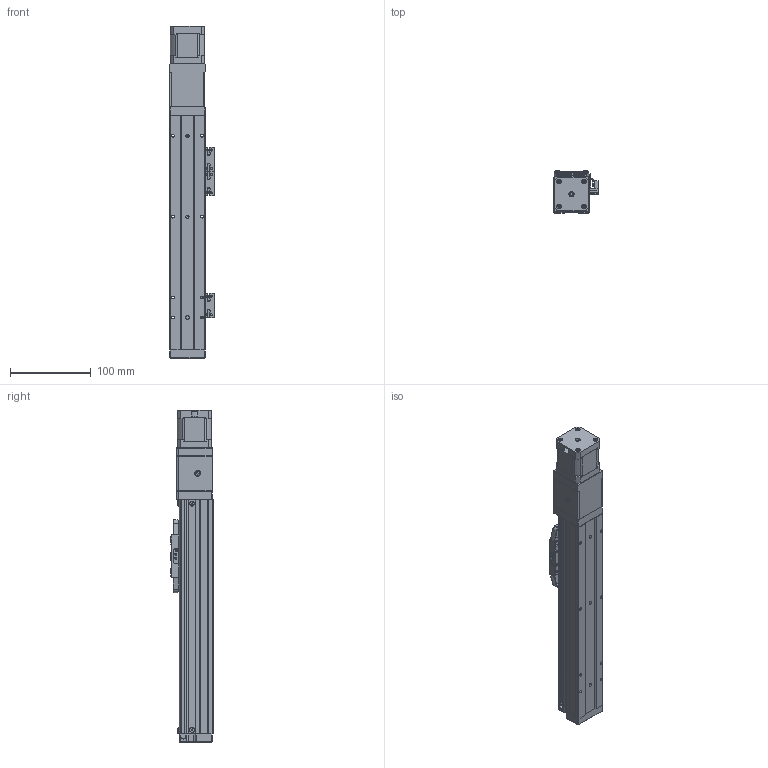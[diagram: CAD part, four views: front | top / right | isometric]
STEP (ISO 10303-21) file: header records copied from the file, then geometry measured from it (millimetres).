
FILE_DESCRIPTION (( 'STEP AP203' ), '1' );
FILE_NAME ('GTH4-150-BC-B42-C4.step', '2023-02-14T00:14:14', ( '微软用户' ), ( '微软中国' ), 'SwSTEP 2.0', 'SolidWorks 2020', '' );
FILE_SCHEMA (( 'CONFIG_CONTROL_DESIGN' ));
Length unit declared in the file: millimetre
Products named in the file (19): GBT 70.1-M2.5×6; GTH4-150-BC-B42-C4; BTH50-028; BTH40-004; BTH50-023; BTH40-013; BTH40-001-50_BTH40-001-150; BTH50-024; GBT 70.3-M3℅6; BTH40-003; GBT 70.1-M3℅6; BTH40-017; BTH40-006; GBT96.1-2002 3×0.8; BTH40-005-1; BTH-M3X5X6; BTH40-022; 42CM06; GBT70.1-2000 M3×16
Assembly tree (49 placements, depth 2):
  GTH4-150-BC-B42-C4
    BTH40-001-50_BTH40-001-150
    BTH40-003
    BTH40-006
    BTH-M3X5X6  x10
    GBT70.1-2000 M3×16  x4
    BTH50-028  x2
    BTH50-023  x3
    BTH50-024  x3
    GBT 70.1-M3℅6  x6
    GBT96.1-2002 3×0.8  x6
    BTH40-022
    GBT 70.1-M2.5×6  x2
    BTH40-004
    BTH40-013
    GBT 70.3-M3℅6  x4
    BTH40-017
    BTH40-005-1
    42CM06
Bounding box: 55.2 x 52 x 411 mm (x, y, z)
Volume: 643813.5 mm3; surface area: 168322.7 mm2
Topology: 58 solids, 58 shells, 3286 faces, 7670 edges, 4604 vertices
Faces by surface type: cone 1475, plane 1112, cylinder 535, torus 128, bspline 24, sphere 12
Entity records: 75238 total; most frequent: DIRECTION 13409, CARTESIAN_POINT 13157, ORIENTED_EDGE 11802, EDGE_CURVE 5901, AXIS2_PLACEMENT_3D 5083, VERTEX_POINT 3535, LINE 3243, VECTOR 3243
